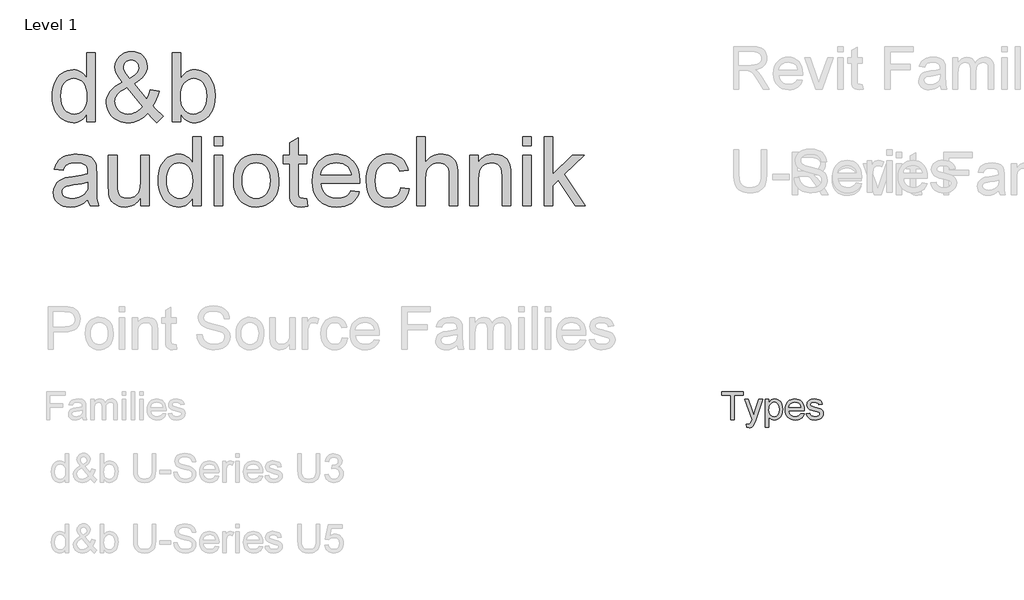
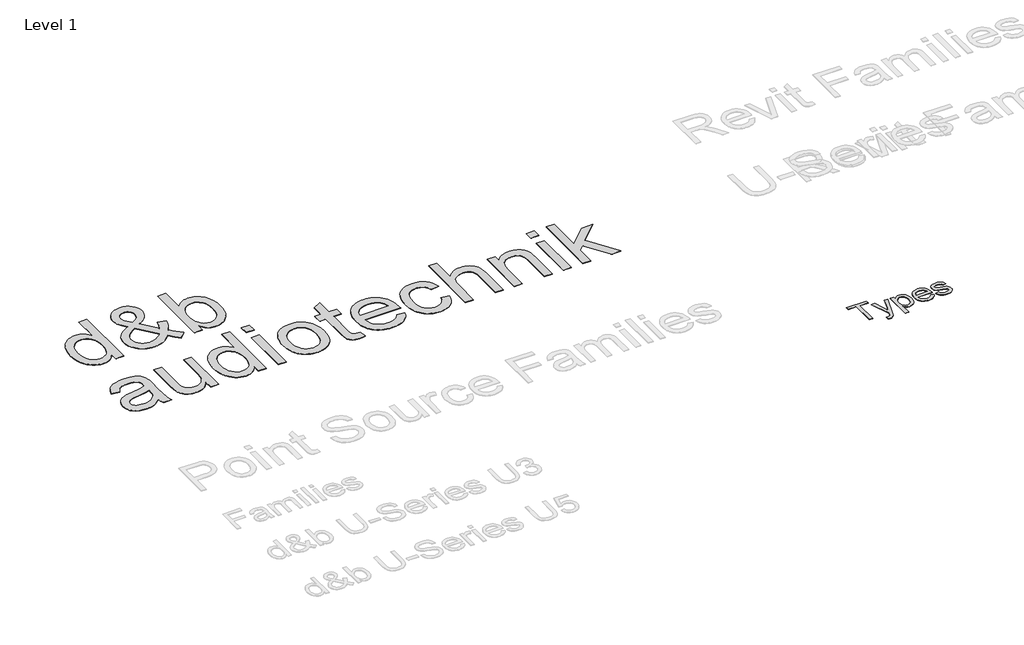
# One storey, part 27 of 29: 2 proxies.
"""IFC4 building model written with IfcOpenShell, lengths in millimetres."""

from ifc_helpers import new_model, si_unit, origin, origin_with_axes, place, context, project, spatial, polyline, outline, extrude, element, save

model = new_model("IFC4")

# Units and contexts
model_context = context("Model", 3, world=origin())
ifc_project = project(units=[si_unit("LENGTHUNIT", "METRE", prefix="MILLI")], contexts=[model_context])

# Site, building, storey
site = spatial("IfcSite", under=ifc_project)
building = spatial("IfcBuilding", under=site)
storey = spatial("IfcBuildingStorey", under=building, Name="Level 1", Elevation=0.0)

# Proxies
placement = place(None, origin())
element("IfcBuildingElementProxy", 1, Name="1000mm Arial", ObjectType="1000mm Arial", at=placement, inside=storey, context=model_context, shape_type="SweptSolid", body=[
    extrude(outline(polyline([(-20485.0918031, 21579.111869), (-20485.0918031, 21694.6019258), (-20502.4384754, 21663.947296), (-20521.720443, 21637.3799502), (-20542.937706, 21614.8998883), (-20566.0902643, 21596.5071105), (-20591.1781179, 21582.2016166), (-20618.2012669, 21571.9834066), (-20647.1597112, 21565.8524807), (-20678.0534508, 21563.8088387), (-20718.4630152, 21566.7678231), (-20757.1988107, 21575.6447762), (-20794.2608372, 21590.4396981), (-20829.6490948, 21611.1525887), (-20862.2577004, 21637.1632569), (-20890.9807709, 21667.8515115), (-20915.8183064, 21703.2173525), (-20936.7703069, 21743.26078), (-20953.4033857, 21787.2196312), (-20965.2841563, 21834.3317435), (-20972.4126187, 21884.597117), (-20974.7887728, 21938.0157516), (-20972.5994233, 21990.4555302), (-20966.0313746, 22040.4145442), (-20955.0846269, 22087.8927935), (-20939.75918, 22132.8902781), (-20920.0625062, 22174.0918939), (-20896.0020777, 22210.1825366), (-20867.5778945, 22241.1622064), (-20834.7899565, 22267.0309031), (-20798.7964521, 22287.429962), (-20760.7555697, 22302.0007184), (-20720.6673091, 22310.7431723), (-20678.5316705, 22313.6573235), (-20647.7163888, 22311.5725845), (-20618.6346535, 22305.3183676), (-20591.2864646, 22294.8946726), (-20565.671822, 22280.3014997), (-20542.0746689, 22262.3757332), (-20520.778948, 22241.9542577), (-20501.7846594, 22219.0370732), (-20485.0918031, 22193.6241796), (-20485.0918031, 22558.5058084), (-20362.6675607, 22558.5058084), (-20362.6675607, 21579.111869), (-20485.0918031, 21579.111869)]), holes=[polyline([(-20852.3645304, 21938.4939713), (-20848.9123819, 21879.1274792), (-20838.5559366, 21827.7562227), (-20821.2951944, 21784.3802017), (-20797.1301554, 21748.9994163), (-20768.2725855, 21721.5391447), (-20736.934251, 21701.9246649), (-20703.1151518, 21690.1559771), (-20666.815288, 21686.2330811), (-20630.3435639, 21689.9766447), (-20596.7262136, 21701.2073354), (-20565.9632372, 21719.9251532), (-20538.0546345, 21746.1300982), (-20514.8833958, 21780.0313914), (-20498.332511, 21821.8382539), (-20488.4019801, 21871.5506859), (-20485.0918031, 21929.1686872), (-20488.4617575, 21992.3385203), (-20498.5716208, 22046.5118453), (-20515.4213929, 22091.6886623), (-20539.0110739, 22127.8689713), (-20567.5323956, 22155.5907693), (-20599.1770896, 22175.3920537), (-20633.945156, 22187.2728242), (-20671.8365948, 22191.2330811), (-20708.8537882, 22187.4297401), (-20742.6728874, 22176.019717), (-20773.2938924, 22157.0030119), (-20800.7168031, 22130.3796247), (-20823.3126838, 22095.5667252), (-20839.4525986, 22051.9814831), (-20849.1365474, 21999.6238985), (-20852.3645304, 21938.4939713)])]), origin_with_axes(), (0.0, 0.0, 1.0), 5.0),
    extrude(outline(polyline([(-19617.362163, 21700.1014523), (-19647.8038355, 21668.157871), (-19679.590501, 21640.4734339), (-19712.7221594, 21617.0481409), (-19747.1988107, 21597.8819921), (-19783.0503436, 21582.9749875), (-19820.3066469, 21572.327127), (-19858.9677205, 21565.9384108), (-19899.0335645, 21563.8088387), (-19935.7219818, 21565.3854693), (-19970.4676317, 21570.1153609), (-20003.270514, 21577.9985138), (-20034.1306289, 21589.0349277), (-20063.0479762, 21603.2246028), (-20090.0225559, 21620.567539), (-20115.0543682, 21641.0637363), (-20138.143413, 21664.7131948), (-20169.42197, 21707.0505823), (-20191.7637965, 21751.8089571), (-20205.1688924, 21798.988319), (-20209.6372577, 21848.5886682), (-20206.0431377, 21892.569936), (-20195.260778, 21934.3693264), (-20177.2901785, 21973.9868394), (-20152.1313391, 22011.4224751), (-20119.829093, 22046.661289), (-20080.4282733, 22079.6883368), (-20033.9288799, 22110.5036185), (-19980.330913, 22139.1071341), (-20033.7420754, 22208.2098804), (-20065.8126838, 22262.9660357), (-20081.8629324, 22309.712011), (-20087.2130152, 22354.7842175), (-20082.9987041, 22397.569936), (-20070.3557709, 22437.4564476), (-20049.2842155, 22474.4437523), (-20019.784038, 22508.5318501), (-19983.9026163, 22537.0905326), (-19943.6873287, 22557.4895915), (-19899.138175, 22569.7290269), (-19850.2551554, 22573.8088387), (-19803.5839018, 22569.9083593), (-19761.3660692, 22558.2069211), (-19723.6016575, 22538.7045241), (-19690.2906667, 22511.4011682), (-19663.0919215, 22478.6281746), (-19643.6642463, 22442.7168643), (-19632.0076412, 22403.6672371), (-19628.1221061, 22361.4792932), (-19630.9988965, 22326.7336434), (-19639.6292676, 22293.273209), (-19654.0132194, 22261.09799), (-19674.150752, 22230.2079864), (-19700.0418653, 22200.6031983), (-19731.6865593, 22172.2836256), (-19769.084834, 22145.2492684), (-19812.2366895, 22119.5001266), (-19635.0562917, 21898.8017364), (-19604.8686734, 21961.866959), (-19582.2130152, 22034.3770205), (-19459.7887728, 22007.8358273), (-19477.213903, 21947.9836434), (-19497.4485739, 21894.4379817), (-19520.4927856, 21847.1988422), (-19546.346538, 21806.2662251), (-19512.6320493, 21763.9138931), (-19476.765572, 21725.0884315), (-19438.7471061, 21689.7898401), (-19398.5766516, 21658.018119), (-19490.3948334, 21563.8088387), (-19521.3745032, 21589.6327023), (-19552.8622813, 21620.9560925), (-19617.362163, 21700.1014523)]), holes=[polyline([(-19874.1661402, 22196.7326076), (-19810.1444783, 22237.3513931), (-19788.4004264, 22255.6657131), (-19773.500894, 22272.6499845), (-19756.2849849, 22306.9921365), (-19750.5463486, 22344.7416038), (-19752.4368108, 22367.2104574), (-19758.1081975, 22387.512378), (-19767.5605087, 22405.6473656), (-19780.7937444, 22421.6154201), (-19796.8664095, 22434.6394347), (-19814.8370091, 22443.9423022), (-19834.705543, 22449.5240228), (-19856.4720114, 22451.3845963), (-19878.7017552, 22449.5389671), (-19899.0036757, 22444.0020797), (-19917.3777732, 22434.773934), (-19933.8240474, 22421.85453), (-19947.3711148, 22406.2750289), (-19957.0475915, 22389.066592), (-19962.8534775, 22370.2292193), (-19964.7887728, 22349.7629107), (-19962.1585645, 22327.9142483), (-19954.2679395, 22304.9298141), (-19941.0571203, 22280.6900532), (-19922.4663296, 22255.0754107), (-19874.1661402, 22196.7326076)]), polyline([(-19699.376841, 21788.3329864), (-19917.9232425, 22061.1573235), (-19963.7202507, 22034.0333001), (-20001.4024684, 22007.8956048), (-20030.9698956, 21982.7442376), (-20052.4225323, 21958.5791985), (-20067.6433686, 21934.967101), (-20078.5153945, 21911.4745584), (-20085.03861, 21888.1015707), (-20087.2130152, 21864.8481379), (-20084.2390865, 21836.2446223), (-20075.3173003, 21807.1031095), (-20060.4476566, 21777.4235996), (-20039.6301554, 21747.2060925), (-20013.3579608, 21720.5304), (-19982.1242368, 21701.476334), (-19945.9289835, 21690.0438943), (-19904.7722008, 21686.2330811), (-19877.2969848, 21688.0114606), (-19849.3883822, 21693.3465991), (-19821.0463929, 21702.2384966), (-19792.2710171, 21714.6871531), (-19764.7210793, 21729.9602947), (-19740.055404, 21747.3256474), (-19718.2739912, 21766.7832113), (-19699.376841, 21788.3329864)])]), origin_with_axes(), (0.0, 0.0, 1.0), 5.0),
    extrude(outline(polyline([(-19153.7281667, 21579.111869), (-19276.1524092, 21579.111869), (-19276.1524092, 22558.5058084), (-19153.7281667, 22558.5058084), (-19153.7281667, 22195.2979485), (-19134.2481863, 22223.0384271), (-19113.468046, 22247.0801751), (-19091.3877459, 22267.4231927), (-19068.0072861, 22284.0674798), (-19043.3266664, 22297.0130364), (-19017.3458869, 22306.2598626), (-18990.0649476, 22311.8079583), (-18961.4838486, 22313.6573235), (-18929.5178507, 22311.9910268), (-18898.418626, 22306.9921365), (-18868.1861746, 22298.6606527), (-18838.8204963, 22286.9965754), (-18811.1734201, 22272.3137363), (-18786.0967747, 22254.925967), (-18763.5905602, 22234.8332675), (-18743.6547766, 22212.0356379), (-18710.3886189, 22158.7440305), (-18685.1924186, 22095.4695868), (-18669.3215024, 22024.8425153), (-18664.031197, 21949.4930243), (-18669.508307, 21862.5467056), (-18676.3546945, 21822.9964423), (-18685.9396369, 21786.0614429), (-18698.2631343, 21751.7417074), (-18713.3251867, 21720.0372359), (-18731.1257941, 21690.9480284), (-18751.6649565, 21664.4740849), (-18797.6861302, 21620.4330397), (-18822.3499374, 21603.1312005), (-18848.1158916, 21588.9751502), (-18874.9839928, 21577.9648889), (-18902.954241, 21570.1004166), (-18932.0266361, 21565.3817332), (-18962.2011781, 21563.8088387), (-18991.8694798, 21565.8375363), (-19019.9013734, 21571.9236292), (-19046.296859, 21582.0671173), (-19071.0559366, 21596.2680006), (-19094.1786062, 21614.5262792), (-19115.6648677, 21636.841953), (-19135.5147213, 21663.2150221), (-19153.7281667, 21693.6454864), (-19153.7281667, 21579.111869)]), holes=[polyline([(-19153.7281667, 21943.7543879), (-19151.6359556, 21888.5797904), (-19145.359322, 21841.6544826), (-19134.8982662, 21802.9784646), (-19120.252788, 21772.5517364), (-19090.5882224, 21734.7873247), (-19056.1115711, 21707.8127449), (-19016.8228341, 21691.6279971), (-18972.7220114, 21686.2330811), (-18936.1083159, 21690.2082823), (-18902.0650512, 21702.133886), (-18870.5922174, 21722.0098922), (-18841.6898145, 21749.8363008), (-18817.5247754, 21785.5383901), (-18800.2640332, 21829.0414381), (-18789.9075879, 21880.345445), (-18786.4554395, 21939.4504107), (-18789.7656164, 21999.6762037), (-18799.6961473, 22051.4733747), (-18816.2470322, 22094.8419234), (-18839.4182709, 22129.7818501), (-18867.2820404, 22156.6667636), (-18897.9105176, 22175.8702733), (-18931.3037024, 22187.3923792), (-18967.4615948, 22191.2330811), (-19004.0752903, 22187.2578799), (-19038.118555, 22175.3322762), (-19069.5913888, 22155.45627), (-19098.4937917, 22127.6298614), (-19122.6588308, 22092.2864369), (-19139.919573, 22049.8593832), (-19150.2760183, 22000.3487002), (-19153.7281667, 21943.7543879)])]), origin_with_axes(), (0.0, 0.0, 1.0), 5.0),
    extrude(outline(polyline([(-20469.7887728, 20473.9603538), (-20498.8182028, 20446.7167755), (-20528.2810195, 20423.8070631), (-20558.1772227, 20405.2312168), (-20588.5068126, 20390.9892364), (-20619.6135094, 20380.42357), (-20651.8410337, 20372.8766654), (-20719.6585645, 20366.8391417), (-20774.1681377, 20370.4706225), (-20821.9676909, 20381.365065), (-20863.0572239, 20399.5224691), (-20897.4367368, 20424.9428349), (-20924.5831768, 20456.0121708), (-20943.9734911, 20491.1164855), (-20955.6076796, 20530.2557788), (-20959.4857425, 20573.4300508), (-20953.6275512, 20624.1811162), (-20936.0529773, 20670.2695394), (-20908.9438983, 20709.7226644), (-20874.4821914, 20740.5678349), (-20833.9829608, 20763.8810451), (-20788.7613107, 20780.7382894), (-20744.7053211, 20790.123351), (-20682.8356478, 20799.1497478), (-20557.6616421, 20818.5176455), (-20509.331564, 20829.4569211), (-20470.5061023, 20841.2330811), (-20469.7887728, 20868.4916038), (-20471.8959283, 20898.1711138), (-20478.217395, 20923.1282042), (-20488.7531727, 20943.3628751), (-20503.5032614, 20958.8751266), (-20528.998349, 20974.3574893), (-20560.0527406, 20985.4163198), (-20596.6664362, 20992.051618), (-20638.8394357, 20994.2633841), (-20678.0534508, 20992.7913641), (-20711.7679395, 20988.3753041), (-20739.9829016, 20981.0152041), (-20762.6983372, 20970.7110641), (-20781.3638497, 20956.6558883), (-20797.4290427, 20938.042681), (-20810.893916, 20914.8714423), (-20821.7584698, 20887.142172), (-20944.1827122, 20902.4452023), (-20934.8649003, 20937.713905), (-20922.9318244, 20969.3959599), (-20908.3834846, 20997.4913671), (-20891.2198808, 21022.0001266), (-20870.7012669, 21043.4154024), (-20846.0878969, 21062.2303586), (-20817.3797707, 21078.4449952), (-20784.5768883, 21092.0593122), (-20748.3442741, 21102.8341997), (-20709.3469523, 21110.530548), (-20667.5849228, 21115.1483569), (-20623.0581857, 21116.6876266), (-20540.2962894, 21111.2478775), (-20505.3488906, 21104.4481912), (-20474.6905247, 21094.9286304), (-20425.2246748, 21070.3899822), (-20406.1631366, 21056.0359191), (-20390.8825228, 21040.29203), (-20368.1073097, 21003.0805598), (-20353.3422766, 20957.2013576), (-20348.8589669, 20914.8789144), (-20347.3645304, 20850.0801455), (-20347.3645304, 20697.767172), (-20345.8103164, 20565.0910948), (-20341.1476743, 20485.0789618), (-20331.9419452, 20432.5046839), (-20316.7584698, 20382.142172), (-20439.1827122, 20382.142172), (-20458.7897198, 20424.7037251), (-20469.7887728, 20473.9603538)]), holes=[polyline([(-20469.7887728, 20718.8088387), (-20552.0425607, 20698.4247241), (-20667.2935077, 20681.2685925), (-20730.8070612, 20671.8835309), (-20772.6213959, 20661.4224751), (-20800.0293623, 20647.8529912), (-20820.3238107, 20629.1426455), (-20832.8770777, 20606.7260972), (-20837.0615001, 20582.0380054), (-20834.7824843, 20563.013828), (-20827.9454371, 20545.6335309), (-20816.5503584, 20529.897114), (-20800.5972482, 20515.8045773), (-20780.2355501, 20504.1928053), (-20755.6147079, 20495.8986824), (-20726.7347215, 20490.9222087), (-20693.595591, 20489.2633841), (-20659.7615474, 20491.0940689), (-20627.8403827, 20496.5861233), (-20597.8320967, 20505.7395471), (-20569.7366895, 20518.5543406), (-20544.3910455, 20533.9694536), (-20522.6320493, 20550.9238363), (-20504.4597008, 20569.4174887), (-20489.8740001, 20589.4504107), (-20481.4005448, 20607.3836493), (-20475.3480768, 20629.1426455), (-20470.5061023, 20684.1379107), (-20469.7887728, 20718.8088387)])]), origin_with_axes(), (0.0, 0.0, 1.0), 5.0),
    extrude(outline(polyline([(-19719.940288, 20382.142172), (-19719.940288, 20505.7619637), (-19741.1762314, 20473.2019273), (-19764.2353874, 20444.9832291), (-19789.117756, 20421.1058691), (-19815.8233372, 20401.5698472), (-19844.352131, 20386.3751636), (-19874.7041374, 20375.5218181), (-19906.8793564, 20369.0098108), (-19940.877788, 20366.8391417), (-20000.5058064, 20372.9364429), (-20028.7730738, 20380.5580693), (-20056.00918, 20391.2283463), (-20102.575823, 20418.7259788), (-20120.7033384, 20434.8061162), (-20135.3936497, 20452.4404675), (-20157.4814219, 20493.388029), (-20171.8579016, 20542.5848804), (-20177.2378732, 20588.972191), (-20179.031197, 20656.4011682), (-20179.031197, 21101.3845963), (-20056.6069546, 21101.3845963), (-20056.6069546, 20714.0266417), (-20054.7538533, 20636.5550508), (-20049.1945493, 20589.2113008), (-20041.864338, 20567.1459451), (-20031.3509769, 20547.5762984), (-20017.6544659, 20530.5023608), (-20000.774805, 20515.9241323), (-19981.2201027, 20504.260055), (-19959.4984674, 20495.9285712), (-19935.6098991, 20490.9296809), (-19909.5543978, 20489.2633841), (-19882.7217895, 20490.9670418), (-19856.74101, 20496.0780148), (-19831.6120594, 20504.5963032), (-19807.3349376, 20516.5219069), (-19785.2247488, 20531.3840784), (-19766.5965971, 20548.7120702), (-19751.4504827, 20568.5058824), (-19739.7864054, 20590.7655148), (-19731.103729, 20616.9106823), (-19724.9018173, 20648.3610996), (-19719.940288, 20727.1776834), (-19719.940288, 21101.3845963), (-19597.5160455, 21101.3845963), (-19597.5160455, 20382.142172), (-19719.940288, 20382.142172)])), origin_with_axes(), (0.0, 0.0, 1.0), 5.0),
    extrude(outline(polyline([(-18985.3948334, 20382.142172), (-18985.3948334, 20497.6322288), (-19002.7415057, 20466.977599), (-19022.0234733, 20440.4102532), (-19043.2407363, 20417.9301914), (-19066.3932946, 20399.5374135), (-19091.4811482, 20385.2319196), (-19118.5042972, 20375.0137097), (-19147.4627415, 20368.8827837), (-19178.3564811, 20366.8391417), (-19218.7660455, 20369.7981261), (-19257.501841, 20378.6750792), (-19294.5638675, 20393.4700011), (-19329.9521251, 20414.1828917), (-19362.5607307, 20440.1935599), (-19391.2838012, 20470.8818145), (-19416.1213367, 20506.2476556), (-19437.0733372, 20546.291083), (-19453.706416, 20590.2499342), (-19465.5871866, 20637.3620466), (-19472.715649, 20687.62742), (-19475.0918031, 20741.0460546), (-19472.9024536, 20793.4858332), (-19466.3344049, 20843.4448472), (-19455.3876572, 20890.9230965), (-19440.0622103, 20935.9205811), (-19420.3655365, 20977.1221969), (-19396.305108, 21013.2128396), (-19367.8809248, 21044.1925094), (-19335.0929868, 21070.0612061), (-19299.0994824, 21090.4602651), (-19261.0586, 21105.0310215), (-19220.9703394, 21113.7734753), (-19178.8347008, 21116.6876266), (-19148.0194191, 21114.6028876), (-19118.9376838, 21108.3486706), (-19091.5894949, 21097.9249756), (-19065.9748523, 21083.3318027), (-19042.3776992, 21065.4060363), (-19021.0819783, 21044.9845608), (-19002.0876897, 21022.0673762), (-18985.3948334, 20996.6544826), (-18985.3948334, 21361.5361114), (-18862.970591, 21361.5361114), (-18862.970591, 20382.142172), (-18985.3948334, 20382.142172)]), holes=[polyline([(-19352.6675607, 20741.5242743), (-19349.2154122, 20682.1577822), (-19338.8589669, 20630.7865257), (-19321.5982247, 20587.4105048), (-19297.4331857, 20552.0297194), (-19268.5756158, 20524.5694477), (-19237.2372813, 20504.954968), (-19203.4181821, 20493.1862801), (-19167.1183183, 20489.2633841), (-19130.6465942, 20493.0069477), (-19097.0292439, 20504.2376384), (-19066.2662675, 20522.9554562), (-19038.3576648, 20549.1604012), (-19015.1864261, 20583.0616944), (-18998.6355413, 20624.868557), (-18988.7050104, 20674.5809889), (-18985.3948334, 20732.1989902), (-18988.7647878, 20795.3688233), (-18998.8746511, 20849.5421483), (-19015.7244233, 20894.7189653), (-19039.3141042, 20930.8992743), (-19067.8354259, 20958.6210724), (-19099.4801199, 20978.4223567), (-19134.2481863, 20990.3031273), (-19172.1396251, 20994.2633841), (-19209.1568185, 20990.4600431), (-19242.9759177, 20979.05002), (-19273.5969227, 20960.0333149), (-19301.0198334, 20933.4099277), (-19323.6157141, 20898.5970282), (-19339.7556289, 20855.0117861), (-19349.4395777, 20802.6542015), (-19352.6675607, 20741.5242743)])]), origin_with_axes(), (0.0, 0.0, 1.0), 5.0),
    extrude(outline(polyline([(-18679.3342273, 21239.111869), (-18679.3342273, 21361.5361114), (-18556.9099849, 21361.5361114), (-18556.9099849, 21239.111869), (-18679.3342273, 21239.111869)])), origin_with_axes(), (0.0, 0.0, 1.0), 5.0),
    extrude(outline(polyline([(-18679.3342273, 20382.142172), (-18679.3342273, 21101.3845963), (-18556.9099849, 21101.3845963), (-18556.9099849, 20382.142172), (-18679.3342273, 20382.142172)])), origin_with_axes(), (0.0, 0.0, 1.0), 5.0),
    extrude(outline(polyline([(-18403.8796819, 20741.7633841), (-18402.2245934, 20789.9477547), (-18397.259328, 20834.9116145), (-18388.9838856, 20876.6549635), (-18377.3982662, 20915.1778018), (-18362.5024698, 20950.4801292), (-18344.2964965, 20982.5619459), (-18322.7803463, 21011.4232519), (-18297.954019, 21037.064047), (-18251.2977098, 21071.8993631), (-18199.7994262, 21096.7817317), (-18143.4591682, 21111.7111528), (-18082.2769357, 21116.6876266), (-18014.7358757, 21110.6276863), (-17983.391937, 21103.0527611), (-17953.6657259, 21092.4478657), (-17925.5572424, 21078.8130002), (-17899.0664865, 21062.1481646), (-17874.1934581, 21042.4533588), (-17850.9381573, 21019.728583), (-17829.8946226, 20994.3325018), (-17811.6568925, 20966.6237801), (-17796.224967, 20936.6024178), (-17783.5988462, 20904.2684149), (-17773.77853, 20869.6217715), (-17766.7640184, 20832.6624875), (-17761.1524092, 20751.8059978), (-17763.6331738, 20686.2749549), (-17771.0754679, 20628.1264287), (-17783.4792913, 20577.3604189), (-17800.844644, 20533.9769258), (-17822.9548328, 20496.5039292), (-17849.5931644, 20463.4694092), (-17880.7596387, 20434.8733658), (-17916.4542558, 20410.7157989), (-17955.2871896, 20391.5197614), (-17995.8686142, 20377.808306), (-18038.1985295, 20369.5814328), (-18082.2769357, 20366.8391417), (-18150.8043238, 20372.8766654), (-18182.4845107, 20380.42357), (-18212.4423594, 20390.9892364), (-18240.6778701, 20404.5736647), (-18267.1910426, 20421.1768548), (-18291.9818769, 20440.7988067), (-18315.0503732, 20463.4395205), (-18335.8697424, 20488.9196637), (-18353.9131957, 20517.059904), (-18369.1807332, 20547.8602414), (-18381.6723547, 20581.3206758), (-18391.3880604, 20617.4412073), (-18398.3278501, 20656.2218358), (-18403.8796819, 20741.7633841)]), holes=[polyline([(-18281.4554395, 20742.002494), (-18277.9136248, 20682.6210576), (-18267.2881809, 20631.204968), (-18249.5791078, 20587.7542252), (-18224.7864054, 20552.2688292), (-18194.6286757, 20524.703947), (-18160.8245209, 20505.0147454), (-18123.3739409, 20493.2012245), (-18082.2769357, 20489.2633841), (-18041.3891516, 20493.223641), (-18004.0880152, 20505.1044116), (-17970.3735266, 20524.9056959), (-17940.2456857, 20552.627494), (-17915.4529833, 20588.4640825), (-17897.7439101, 20632.6097383), (-17887.1184662, 20685.0644613), (-17883.5766516, 20745.8282516), (-17887.1408828, 20803.3266979), (-17897.8335763, 20853.3977947), (-17915.6547322, 20896.0415417), (-17940.6043505, 20931.2579391), (-17970.8442741, 20958.8228213), (-18004.5363462, 20978.5120229), (-18041.6805667, 20990.3255438), (-18082.2769357, 20994.2633841), (-18123.3739409, 20990.3404882), (-18160.8245209, 20978.5718003), (-18194.6286757, 20958.9573206), (-18224.7864054, 20931.4970489), (-18249.5791078, 20896.1162635), (-18267.2881809, 20852.7402426), (-18277.9136248, 20801.3689861), (-18281.4554395, 20742.002494)])]), origin_with_axes(), (0.0, 0.0, 1.0), 5.0),
    extrude(outline(polyline([(-17363.2736213, 20484.2420773), (-17347.970591, 20378.5555243), (-17396.4501128, 20369.7682374), (-17439.549663, 20366.8391417), (-17498.3109082, 20371.920226), (-17522.0873938, 20378.2715814), (-17542.127788, 20387.1634788), (-17573.0925133, 20410.6560215), (-17593.2972955, 20440.4849751), (-17599.7831502, 20461.5415861), (-17604.4159035, 20491.7142601), (-17608.1221061, 20579.407797), (-17608.1221061, 20978.9603538), (-17699.940288, 20978.9603538), (-17699.940288, 21101.3845963), (-17608.1221061, 21101.3845963), (-17608.1221061, 21276.1738955), (-17485.6978637, 21348.1459599), (-17485.6978637, 21101.3845963), (-17363.2736213, 21101.3845963), (-17363.2736213, 20978.9603538), (-17485.6978637, 20978.9603538), (-17485.6978637, 20582.9944448), (-17484.0838722, 20542.7044353), (-17479.2418978, 20519.8694448), (-17470.7833869, 20507.2265115), (-17458.3197861, 20497.5126739), (-17440.655546, 20491.3257066), (-17416.5951175, 20489.2633841), (-17363.2736213, 20484.2420773)])), origin_with_axes(), (0.0, 0.0, 1.0), 5.0),
    extrude(outline(polyline([(-16737.284038, 20596.3845963), (-16617.250894, 20581.081566), (-16635.6548802, 20533.0055421), (-16660.4998879, 20490.6382658), (-16691.7859171, 20453.9797371), (-16729.5129679, 20423.0299561), (-16773.2924867, 20398.4464748), (-16822.7359201, 20380.8868453), (-16877.8432679, 20370.3510676), (-16938.6145304, 20366.8391417), (-16977.6305327, 20368.3541268), (-17014.5767404, 20372.8990819), (-17049.4531534, 20380.4740072), (-17082.2597719, 20391.0789026), (-17112.9965957, 20404.7137681), (-17141.6636248, 20421.3786037), (-17168.2608594, 20441.0734094), (-17192.7882993, 20463.7981853), (-17214.812558, 20489.25778), (-17233.9002489, 20517.1570424), (-17250.0513719, 20547.4959725), (-17263.2659272, 20580.2745702), (-17273.5439146, 20615.4928356), (-17280.8853341, 20653.1507687), (-17286.7584698, 20735.7856379), (-17280.8255567, 20821.2225757), (-17273.4094153, 20860.1414396), (-17263.0268173, 20896.5272336), (-17249.6777628, 20930.3799576), (-17233.3622517, 20961.6996117), (-17214.0802841, 20990.4861958), (-17191.8318599, 21016.7397099), (-17167.2184899, 21040.1650029), (-17140.8416847, 21060.4669234), (-17112.7014444, 21077.6454716), (-17082.797769, 21091.7006474), (-17051.1306585, 21102.6324508), (-17017.7001128, 21110.4408818), (-16982.5061319, 21115.1259404), (-16945.548716, 21116.6876266), (-16909.7999256, 21115.1296765), (-16875.721168, 21110.4558261), (-16843.3124433, 21102.6660756), (-16812.5737515, 21091.7604249), (-16783.5050925, 21077.7388739), (-16756.1064663, 21060.6014227), (-16730.377873, 21040.3480713), (-16706.3193126, 21016.9788198), (-16684.54724, 20990.7850831), (-16665.6781105, 20962.0582764), (-16649.711924, 20930.7983998), (-16636.6486805, 20897.0054533), (-16626.48838, 20860.6794368), (-16619.2310224, 20821.8203503), (-16613.4251364, 20736.5029675), (-16614.142466, 20703.5058084), (-17164.3342273, 20703.5058084), (-17157.2431259, 20654.6526775), (-17143.143117, 20611.866959), (-17122.0342007, 20575.1486528), (-17093.916377, 20544.4977591), (-17060.3438598, 20520.3327201), (-17022.8708632, 20503.0719779), (-16981.4973873, 20492.7155326), (-16936.2234319, 20489.2633841), (-16902.3594996, 20490.8624313), (-16871.0659982, 20495.6595726), (-16842.3429276, 20503.6548082), (-16816.190288, 20514.8481379), (-16792.6080791, 20529.5384492), (-16771.5963012, 20548.0246294), (-16753.1549541, 20570.3066784), (-16737.284038, 20596.3845963)]), holes=[polyline([(-17164.3342273, 20825.9300508), (-16735.8493789, 20825.9300508), (-16742.1409568, 20860.5710901), (-16752.4077359, 20890.6092648), (-16766.6497162, 20916.044575), (-16784.8668978, 20936.8770205), (-16818.2526104, 20961.9835546), (-16856.2411876, 20979.9167932), (-16898.8326293, 20990.6767364), (-16946.0269357, 20994.2633841), (-16989.0741806, 20991.4015381), (-17028.5497221, 20982.8160001), (-17064.4535603, 20968.5067702), (-17096.7856952, 20948.4738482), (-17123.9171908, 20923.6437848), (-17144.2191113, 20894.9431308), (-17157.6914569, 20862.3718862), (-17164.3342273, 20825.9300508)])]), origin_with_axes(), (0.0, 0.0, 1.0), 5.0),
    extrude(outline(polyline([(-16031.9099849, 20642.2936872), (-15909.4857425, 20626.9906569), (-15922.8011722, 20569.2232119), (-15943.6186734, 20518.1060096), (-15971.9382461, 20473.63905), (-16007.7598902, 20435.822333), (-16049.574225, 20405.6421868), (-16095.8718694, 20384.0849395), (-16146.6528235, 20371.1505912), (-16201.9170872, 20366.8391417), (-16270.5789746, 20372.8542488), (-16302.2479532, 20380.3731328), (-16332.1422884, 20390.8995702), (-16360.2619802, 20404.4335613), (-16386.6070286, 20420.9751059), (-16411.1774336, 20440.524204), (-16433.9731952, 20463.0808557), (-16454.5123575, 20488.4470482), (-16472.3129649, 20516.4247685), (-16487.3750173, 20547.0140167), (-16499.6985148, 20580.2147928), (-16509.2834572, 20616.0270967), (-16516.1298447, 20654.4509285), (-16521.6069546, 20739.1331758), (-16519.2681614, 20795.4211286), (-16512.2517818, 20848.0776005), (-16500.5578158, 20897.1025916), (-16484.1862633, 20942.4961019), (-16463.0250417, 20983.3465251), (-16436.9620683, 21018.7422549), (-16405.9973429, 21048.6832912), (-16370.1308656, 21073.1696341), (-16330.9841001, 21092.2087558), (-16290.17851, 21105.8081285), (-16247.7140954, 21113.967752), (-16203.5908561, 21116.6876266), (-16149.2755596, 21112.9515352), (-16100.1459579, 21101.743261), (-16056.2020511, 21083.0628041), (-16017.4438391, 21056.9101644), (-15984.528874, 21023.8831166), (-15958.1147079, 20984.5794353), (-15938.2013409, 20938.9991204), (-15924.7887728, 20887.142172), (-16047.2130152, 20871.8391417), (-16056.769937, 20900.4351852), (-16069.4203424, 20925.2503041), (-16085.1642315, 20946.2844986), (-16104.0016042, 20963.5377686), (-16125.454241, 20976.9802254), (-16149.0439219, 20986.5819803), (-16174.7706472, 20992.3430332), (-16202.6344167, 20994.2633841), (-16244.2320582, 20990.4824597), (-16281.7498879, 20979.1396862), (-16315.1879057, 20960.2350638), (-16344.5461118, 20933.7685925), (-16368.4496245, 20899.1275532), (-16385.5235621, 20855.6992269), (-16395.7679247, 20803.4836138), (-16399.1827122, 20742.4807137), (-16395.8426465, 20680.5587351), (-16385.8224494, 20627.7378751), (-16369.1221209, 20584.0181338), (-16345.7416611, 20549.399511), (-16316.9662852, 20523.0899555), (-16284.0812089, 20504.2974159), (-16247.086432, 20493.0218921), (-16205.9819546, 20489.2633841), (-16172.8577684, 20491.6096495), (-16142.587956, 20498.6484457), (-16115.1725175, 20510.3797726), (-16090.6114527, 20526.8036304), (-16069.5922026, 20548.0993512), (-16052.8022079, 20574.4462677), (-16040.2414687, 20605.8443796), (-16031.9099849, 20642.2936872)])), origin_with_axes(), (0.0, 0.0, 1.0), 5.0),
    extrude(outline(polyline([(-15802.3645304, 20382.142172), (-15802.3645304, 21361.5361114), (-15679.940288, 21361.5361114), (-15679.940288, 21001.4366796), (-15658.1476669, 21028.4486203), (-15634.9726921, 21051.8589689), (-15610.4153634, 21071.6677254), (-15584.4756809, 21087.8748898), (-15557.1536447, 21100.4804622), (-15528.4492546, 21109.4844424), (-15498.3625107, 21114.8868305), (-15466.893413, 21116.6876266), (-15428.6208928, 21114.7224425), (-15392.9486923, 21108.8268903), (-15359.8768114, 21099.00097), (-15329.4052501, 21085.2446815), (-15302.3111154, 21068.0213002), (-15279.3715143, 21047.7941015), (-15260.5864468, 21024.5630853), (-15245.955913, 20998.3282516), (-15234.9718043, 20967.4681367), (-15227.1260124, 20930.3612771), (-15222.4185372, 20887.0076727), (-15220.8493789, 20837.4073235), (-15220.8493789, 20382.142172), (-15343.2736213, 20382.142172), (-15343.2736213, 20824.7345016), (-15345.7095529, 20866.0706166), (-15353.0173476, 20901.369208), (-15365.1970055, 20930.6302757), (-15382.2485266, 20953.8538198), (-15403.768413, 20971.5330042), (-15429.3531667, 20984.160993), (-15459.002788, 20991.7377864), (-15492.7172766, 20994.2633841), (-15518.981999, 20992.5597265), (-15544.4546701, 20987.4487535), (-15569.1352897, 20978.9304651), (-15593.023858, 20967.0048614), (-15614.8276873, 20952.1651064), (-15633.25409, 20934.9043643), (-15648.3030661, 20915.2226349), (-15659.9746156, 20893.1199182), (-15668.7095973, 20867.5799975), (-15674.9488699, 20837.5866559), (-15679.940288, 20764.2397099), (-15679.940288, 20382.142172), (-15802.3645304, 20382.142172)])), origin_with_axes(), (0.0, 0.0, 1.0), 5.0),
    extrude(outline(polyline([(-15052.5160455, 20382.142172), (-15052.5160455, 21101.3845963), (-14930.0918031, 21101.3845963), (-14930.0918031, 21000.9584599), (-14909.8944931, 21028.0824833), (-14887.5601388, 21051.5899703), (-14863.0887403, 21071.4809208), (-14836.4802974, 21087.7553349), (-14807.7348103, 21100.4132125), (-14776.852279, 21109.4545537), (-14743.8327033, 21114.8793583), (-14708.6760834, 21116.6876266), (-14648.3307354, 21110.859324), (-14593.0664717, 21093.3744163), (-14568.3634354, 21080.8062049), (-14546.9780484, 21066.4147809), (-14528.9103104, 21050.2001443), (-14514.1602217, 21032.1622951), (-14491.893117, 20990.7066251), (-14477.4568599, 20942.1374372), (-14472.6148855, 20895.6903491), (-14471.000894, 20823.7780622), (-14471.000894, 20382.142172), (-14593.4251364, 20382.142172), (-14593.4251364, 20807.2794826), (-14596.9520067, 20870.583815), (-14607.5326175, 20915.596244), (-14615.9388231, 20932.6253485), (-14627.0499589, 20947.8461848), (-14657.3870209, 20972.8630527), (-14696.27226, 20988.9133013), (-14741.4341327, 20994.2633841), (-14778.6082419, 20991.2595667), (-14813.1371985, 20982.2481143), (-14845.0210023, 20967.2290269), (-14874.2596535, 20946.2023046), (-14898.6862189, 20916.7768489), (-14916.1337657, 20876.5615612), (-14926.6022938, 20825.5564417), (-14930.0918031, 20763.7614902), (-14930.0918031, 20382.142172), (-15052.5160455, 20382.142172)])), origin_with_axes(), (0.0, 0.0, 1.0), 5.0),
    extrude(outline(polyline([(-14302.6675607, 21239.111869), (-14302.6675607, 21361.5361114), (-14180.2433183, 21361.5361114), (-14180.2433183, 21239.111869), (-14302.6675607, 21239.111869)])), origin_with_axes(), (0.0, 0.0, 1.0), 5.0),
    extrude(outline(polyline([(-14302.6675607, 20382.142172), (-14302.6675607, 21101.3845963), (-14180.2433183, 21101.3845963), (-14180.2433183, 20382.142172), (-14302.6675607, 20382.142172)])), origin_with_axes(), (0.0, 0.0, 1.0), 5.0),
    extrude(outline(polyline([(-13996.6069546, 20382.142172), (-13996.6069546, 21361.5361114), (-13874.1827122, 21361.5361114), (-13874.1827122, 20835.2553349), (-13599.6846061, 21101.3845963), (-13430.3948334, 21101.3845963), (-13708.4795872, 20831.907797), (-13415.0918031, 20382.142172), (-13558.0794925, 20382.142172), (-13796.2329016, 20746.784691), (-13874.1827122, 20670.986869), (-13874.1827122, 20382.142172), (-13996.6069546, 20382.142172)])), origin_with_axes(), (0.0, 0.0, 1.0), 5.0),
])
element("IfcBuildingElementProxy", 2, Name="400mm Arial", ObjectType="400mm Arial", at=placement, inside=storey, context=model_context, shape_type="SweptSolid", body=[
    extrude(outline(polyline([(-11345.9583027, 17351.3054836), (-11345.9583027, 17694.0933624), (-11474.5037572, 17694.0933624), (-11474.5037572, 17743.0630593), (-11168.4431512, 17743.0630593), (-11168.4431512, 17694.0933624), (-11296.9886057, 17694.0933624), (-11296.9886057, 17351.3054836), (-11345.9583027, 17351.3054836)])), origin_with_axes(), (0.0, 0.0, 1.0), 5.0),
    extrude(outline(polyline([(-11119.4734542, 17241.1236654), (-11125.5946663, 17288.2761275), (-11100.7272421, 17283.9721502), (-11087.6479334, 17285.3231209), (-11077.4857648, 17289.3760328), (-11063.2348179, 17304.4399533), (-11049.8446663, 17340.4977184), (-11046.0189088, 17352.3575669), (-11150.0795148, 17639.0024533), (-11098.5274315, 17639.0024533), (-11043.2452345, 17479.1814305), (-11024.0208027, 17415.291279), (-11004.7963709, 17471.8168472), (-10948.0795148, 17639.0024533), (-10896.9100072, 17639.0024533), (-10997.0492118, 17344.4191199), (-11023.0643633, 17280.5289684), (-11036.3827819, 17260.1328983), (-11051.4706133, 17246.0015063), (-11068.9734542, 17237.7522165), (-11089.5369012, 17235.0024533), (-11119.4734542, 17241.1236654)])), origin_with_axes(), (0.0, 0.0, 1.0), 5.0),
    extrude(outline(polyline([(-10856.261333, 17241.1236654), (-10856.261333, 17639.0024533), (-10807.291636, 17639.0024533), (-10807.291636, 17590.9891957), (-10791.3190982, 17614.6730262), (-10773.4336815, 17631.590048), (-10752.5833027, 17641.740261), (-10727.7158785, 17645.1236654), (-10694.5991644, 17640.3892904), (-10665.6429618, 17626.1861654), (-10642.0667307, 17603.3750858), (-10625.0899315, 17572.8168472), (-10614.832119, 17536.7351711), (-10611.4128482, 17497.353779), (-10615.2744722, 17455.4736891), (-10626.8593444, 17418.0171313), (-10645.7968444, 17386.885029), (-10671.7163519, 17363.9783055), (-10701.9039703, 17349.88278), (-10733.6458027, 17345.1842715), (-10756.1579949, 17348.328566), (-10776.2551777, 17357.7614495), (-10793.4591313, 17372.000441), (-10807.291636, 17389.5630593), (-10807.291636, 17241.1236654), (-10856.261333, 17241.1236654)]), holes=[polyline([(-10807.291636, 17492.8585139), (-10801.9953529, 17448.9579457), (-10795.374999, 17431.9572355), (-10786.1065035, 17418.2562411), (-10762.6617828, 17400.1795366), (-10749.2447314, 17395.6603605), (-10734.697886, 17394.1539684), (-10719.9418195, 17395.7141602), (-10706.2796805, 17400.3947355), (-10682.2371853, 17419.1170366), (-10672.6757802, 17433.3141839), (-10665.8462052, 17450.9425574), (-10660.3825451, 17496.4929836), (-10665.7146947, 17540.1544419), (-10672.3798818, 17557.2866625), (-10681.7111436, 17571.2865442), (-10705.1199978, 17589.9371124), (-10718.3846166, 17594.5997544), (-10732.6893633, 17596.1539684), (-10746.9492769, 17594.5011216), (-10760.3663283, 17589.5425811), (-10784.6718444, 17569.7084192), (-10794.5680032, 17554.9882191), (-10801.6366881, 17537.2731682), (-10805.8778991, 17516.5632665), (-10807.291636, 17492.8585139)])]), origin_with_axes(), (0.0, 0.0, 1.0), 5.0),
    extrude(outline(polyline([(-10354.8958027, 17437.0024533), (-10306.8825451, 17430.8812411), (-10314.2441396, 17411.6508316), (-10324.1821427, 17394.7039211), (-10336.6965544, 17380.0405096), (-10351.7873747, 17367.6605972), (-10369.2991822, 17357.8272047), (-10389.0765555, 17350.8033529), (-10435.4279997, 17345.1842715), (-10465.8128837, 17347.6082475), (-10492.8860963, 17354.8801758), (-10516.6476375, 17367.0000563), (-10537.0975072, 17383.9678889), (-10553.5422871, 17405.3114317), (-10565.2885584, 17430.5584429), (-10572.3363212, 17459.7089223), (-10574.6855754, 17492.7628699), (-10572.3124102, 17526.937645), (-10565.1929144, 17557.0595082), (-10553.3270882, 17583.1284594), (-10536.7149315, 17605.1444987), (-10516.3188614, 17622.6353841), (-10493.1012951, 17635.1288737), (-10467.0622326, 17642.6249675), (-10438.2016739, 17645.1236654), (-10410.2706547, 17642.6309452), (-10385.0116881, 17635.1527847), (-10362.4247741, 17622.6891839), (-10342.5099125, 17605.2401427), (-10326.2534317, 17583.2719253), (-10314.6416597, 17557.2507961), (-10307.6745965, 17527.1767549), (-10305.3522421, 17493.0498018), (-10305.6391739, 17479.8509381), (-10525.7158785, 17479.8509381), (-10522.8794379, 17460.3096858), (-10517.2394343, 17443.1953983), (-10508.7958678, 17428.5080759), (-10497.5487383, 17416.2477184), (-10469.1305328, 17399.6774059), (-10434.4715603, 17394.1539684), (-10408.4085868, 17396.7124438), (-10386.4583027, 17404.3878699), (-10368.620708, 17417.6584665), (-10354.8958027, 17437.0024533)]), holes=[polyline([(-10525.7158785, 17528.8206351), (-10354.3219391, 17528.8206351), (-10360.9452819, 17554.6923207), (-10373.9289466, 17573.199423), (-10387.2832317, 17583.2420366), (-10402.4786625, 17590.4153321), (-10438.3929618, 17596.1539684), (-10471.4020764, 17591.5750148), (-10498.6964656, 17577.838154), (-10517.6698321, 17556.4258671), (-10525.7158785, 17528.8206351)])]), origin_with_axes(), (0.0, 0.0, 1.0), 5.0),
    extrude(outline(polyline([(-10274.7461815, 17437.0024533), (-10225.7764845, 17443.1236654), (-10218.0532364, 17422.1776427), (-10203.1088709, 17406.7789684), (-10180.847744, 17397.3102184), (-10151.1742118, 17394.1539684), (-10121.8593444, 17397.0471976), (-10101.2480754, 17405.7268851), (-10089.0534732, 17418.3040631), (-10084.9886057, 17432.8897639), (-10089.0773841, 17445.371298), (-10101.3437194, 17454.8878699), (-10151.7480754, 17468.8518851), (-10225.4895527, 17492.8106919), (-10244.1520764, 17504.8498728), (-10257.6737383, 17520.7865442), (-10265.8871616, 17539.6044893), (-10268.6249694, 17560.2874911), (-10266.4251588, 17579.2608576), (-10259.8257269, 17596.775654), (-10249.4244485, 17612.1384618), (-10235.8190982, 17624.6558624), (-10204.6869959, 17639.1459192), (-10162.5558406, 17645.1236654), (-10130.6824978, 17642.7206114), (-10102.9696663, 17635.5114495), (-10080.6846285, 17624.2015536), (-10065.0946663, 17609.496298), (-10054.7651209, 17590.3077326), (-10048.261333, 17565.5479078), (-10097.23103, 17559.4266957), (-10103.4120196, 17574.8373254), (-10115.6424883, 17586.4461086), (-10134.0419911, 17593.7270035), (-10158.730083, 17596.1539684), (-10186.8494012, 17593.8346029), (-10205.5956133, 17586.8765063), (-10216.1403576, 17576.8338927), (-10219.6552724, 17565.260976), (-10213.8209921, 17551.010029), (-10195.5529997, 17540.2022639), (-10153.3740224, 17529.7770745), (-10081.4976019, 17506.7268851), (-10062.51228, 17495.7039211), (-10048.1178671, 17480.6160896), (-10039.0436483, 17461.4155688), (-10036.0189088, 17438.0545366), (-10039.56969, 17413.9044419), (-10050.2220338, 17391.1890063), (-10067.5694533, 17371.6895982), (-10091.2054618, 17357.1875858), (-10119.7551777, 17348.1851), (-10151.8437194, 17345.1842715), (-10178.1996024, 17346.630886), (-10201.2199031, 17350.9707298), (-10220.9046214, 17358.2038027), (-10237.2537572, 17368.3301048), (-10250.6080423, 17381.3018141), (-10261.308208, 17397.0711086), (-10269.3542544, 17415.6379883), (-10274.7461815, 17437.0024533)])), origin_with_axes(), (0.0, 0.0, 1.0), 5.0),
])

save(model, "model.ifc")
